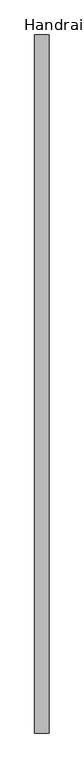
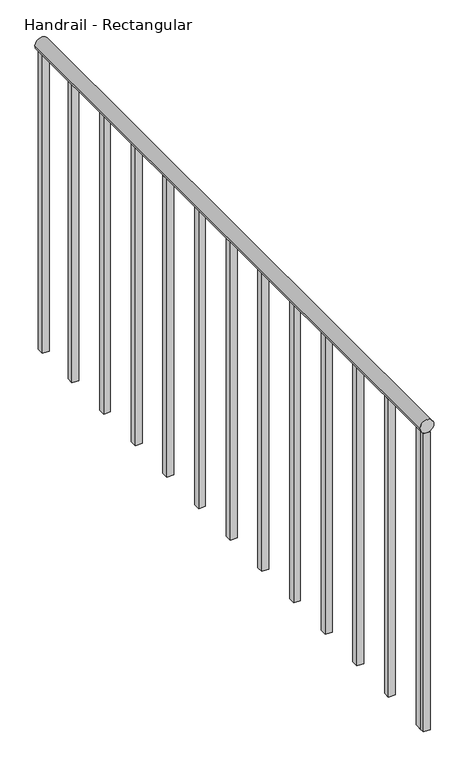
"""IFC4 building model written with IfcOpenShell, lengths in millimetres: railing geometry, Handrail - Rectangular."""

from ifc_helpers import new_model, si_unit, point, frame, frame_2d, origin, place, context, project, spatial, polyline, circle_curve, trimmed, segment, composite_curve, outline, extrude, source, transform, mapped, element, save


def handrail_rectangular_f025ebe9(model_context):
    return source(origin(), model_context, "Body", "SweptSolid", [
        extrude(outline(composite_curve([segment(trimmed(circle_curve(frame_2d((10039.35, -32167.4839563)), 19.05), [point((10039.35, -32186.5339563))], [point((10039.35, -32148.4339563))], False, "CARTESIAN"), True, "CONTINUOUS"), segment(trimmed(circle_curve(frame_2d((10039.35, -32167.4839563)), 19.05), [point((10039.35, -32148.4339563))], [point((10039.35, -32186.5339563))], False, "CARTESIAN"), True, "CONTINUOUS")], self_intersect=False)), frame((0.0, 4578.8316867, 0.0), z_axis=(0.0, 1.0, 0.0), x_axis=(0.0, 0.0, 1.0)), (0.0, 0.0, 1.0), 1854.2),
        extrude(outline(polyline([(-32157.9589563, 4613.7566867), (-32157.9589563, 4594.7066867), (-32177.0089563, 4594.7066867), (-32177.0089563, 4613.7566867), (-32157.9589563, 4613.7566867)])), frame((0.0, 0.0, 9144.0), z_axis=(0.0, 0.0, 1.0), x_axis=(1.0, 0.0, 0.0)), (0.0, 0.0, 1.0), 876.3),
        extrude(outline(polyline([(-32157.9589563, 4766.1566867), (-32157.9589563, 4747.1066867), (-32177.0089563, 4747.1066867), (-32177.0089563, 4766.1566867), (-32157.9589563, 4766.1566867)])), frame((0.0, 0.0, 9144.0), z_axis=(0.0, 0.0, 1.0), x_axis=(1.0, 0.0, 0.0)), (0.0, 0.0, 1.0), 876.3),
        extrude(outline(polyline([(-32157.9589563, 4918.5566867), (-32157.9589563, 4899.5066867), (-32177.0089563, 4899.5066867), (-32177.0089563, 4918.5566867), (-32157.9589563, 4918.5566867)])), frame((0.0, 0.0, 9144.0), z_axis=(0.0, 0.0, 1.0), x_axis=(1.0, 0.0, 0.0)), (0.0, 0.0, 1.0), 876.3),
        extrude(outline(polyline([(-32157.9589563, 5070.9566867), (-32157.9589563, 5051.9066867), (-32177.0089563, 5051.9066867), (-32177.0089563, 5070.9566867), (-32157.9589563, 5070.9566867)])), frame((0.0, 0.0, 9144.0), z_axis=(0.0, 0.0, 1.0), x_axis=(1.0, 0.0, 0.0)), (0.0, 0.0, 1.0), 876.3),
        extrude(outline(polyline([(-32157.9589563, 5223.3566867), (-32157.9589563, 5204.3066867), (-32177.0089563, 5204.3066867), (-32177.0089563, 5223.3566867), (-32157.9589563, 5223.3566867)])), frame((0.0, 0.0, 9144.0), z_axis=(0.0, 0.0, 1.0), x_axis=(1.0, 0.0, 0.0)), (0.0, 0.0, 1.0), 876.3),
        extrude(outline(polyline([(-32157.9589563, 5375.7566867), (-32157.9589563, 5356.7066867), (-32177.0089563, 5356.7066867), (-32177.0089563, 5375.7566867), (-32157.9589563, 5375.7566867)])), frame((0.0, 0.0, 9144.0), z_axis=(0.0, 0.0, 1.0), x_axis=(1.0, 0.0, 0.0)), (0.0, 0.0, 1.0), 876.3),
        extrude(outline(polyline([(-32157.9589563, 5528.1566867), (-32157.9589563, 5509.1066867), (-32177.0089563, 5509.1066867), (-32177.0089563, 5528.1566867), (-32157.9589563, 5528.1566867)])), frame((0.0, 0.0, 9144.0), z_axis=(0.0, 0.0, 1.0), x_axis=(1.0, 0.0, 0.0)), (0.0, 0.0, 1.0), 876.3),
        extrude(outline(polyline([(-32157.9589563, 5680.5566867), (-32157.9589563, 5661.5066867), (-32177.0089563, 5661.5066867), (-32177.0089563, 5680.5566867), (-32157.9589563, 5680.5566867)])), frame((0.0, 0.0, 9144.0), z_axis=(0.0, 0.0, 1.0), x_axis=(1.0, 0.0, 0.0)), (0.0, 0.0, 1.0), 876.3),
        extrude(outline(polyline([(-32157.9589563, 5832.9566867), (-32157.9589563, 5813.9066867), (-32177.0089563, 5813.9066867), (-32177.0089563, 5832.9566867), (-32157.9589563, 5832.9566867)])), frame((0.0, 0.0, 9144.0), z_axis=(0.0, 0.0, 1.0), x_axis=(1.0, 0.0, 0.0)), (0.0, 0.0, 1.0), 876.3),
        extrude(outline(polyline([(-32157.9589563, 5985.3566867), (-32157.9589563, 5966.3066867), (-32177.0089563, 5966.3066867), (-32177.0089563, 5985.3566867), (-32157.9589563, 5985.3566867)])), frame((0.0, 0.0, 9144.0), z_axis=(0.0, 0.0, 1.0), x_axis=(1.0, 0.0, 0.0)), (0.0, 0.0, 1.0), 876.3),
        extrude(outline(polyline([(-32157.9589563, 6137.7566867), (-32157.9589563, 6118.7066867), (-32177.0089563, 6118.7066867), (-32177.0089563, 6137.7566867), (-32157.9589563, 6137.7566867)])), frame((0.0, 0.0, 9144.0), z_axis=(0.0, 0.0, 1.0), x_axis=(1.0, 0.0, 0.0)), (0.0, 0.0, 1.0), 876.3),
        extrude(outline(polyline([(-32157.9589563, 6290.1566867), (-32157.9589563, 6271.1066867), (-32177.0089563, 6271.1066867), (-32177.0089563, 6290.1566867), (-32157.9589563, 6290.1566867)])), frame((0.0, 0.0, 9144.0), z_axis=(0.0, 0.0, 1.0), x_axis=(1.0, 0.0, 0.0)), (0.0, 0.0, 1.0), 876.3),
        extrude(outline(polyline([(-32157.9589563, 4597.8816867), (-32157.9589563, 4578.8316867), (-32177.0089563, 4578.8316867), (-32177.0089563, 4597.8816867), (-32157.9589563, 4597.8816867)])), frame((0.0, 0.0, 9144.0), z_axis=(0.0, 0.0, 1.0), x_axis=(1.0, 0.0, 0.0)), (0.0, 0.0, 1.0), 876.3),
        extrude(outline(polyline([(-32157.9589563, 6433.0316867), (-32157.9589563, 6413.9816867), (-32177.0089563, 6413.9816867), (-32177.0089563, 6433.0316867), (-32157.9589563, 6433.0316867)])), frame((0.0, 0.0, 9144.0), z_axis=(0.0, 0.0, 1.0), x_axis=(1.0, 0.0, 0.0)), (0.0, 0.0, 1.0), 876.3),
    ])


if __name__ == "__main__":
    model = new_model("IFC4")
    model_context = context("Model", 3, world=origin())
    ifc_project = project(units=[si_unit("LENGTHUNIT", "METRE", prefix="MILLI")], contexts=[model_context])
    site = spatial("IfcSite", under=ifc_project)
    building = spatial("IfcBuilding", under=site)
    placement = place(None, origin())
    handrail_rectangular_shape = handrail_rectangular_f025ebe9(model_context)
    element("IfcRailing", 1, ObjectType="Handrail - Rectangular", at=placement, inside=building, context=model_context, shape_type="MappedRepresentation", body=[
        mapped(handrail_rectangular_shape, transform((0.0, 0.0, 0.0), x_axis=(1.0, 0.0, 0.0), y_axis=(0.0, 1.0, 0.0), z_axis=(0.0, 0.0, 1.0))),
    ])
    save(model, "model.ifc")
